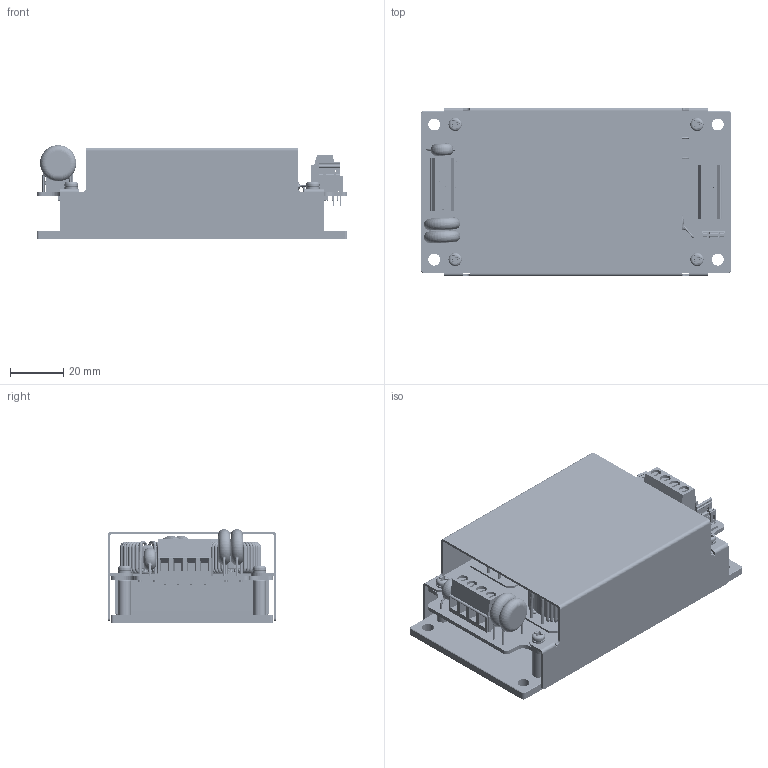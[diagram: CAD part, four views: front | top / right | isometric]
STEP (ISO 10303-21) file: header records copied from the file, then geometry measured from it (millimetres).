
FILE_DESCRIPTION (( 'STEP AP203' ), '1' );
FILE_NAME ('CQB50W8 CMFD¦¨«~¹Ï2025.01.02.STEP', '2025-01-03T09:15:02', ( '' ), ( '' ), 'SwSTEP 2.0', 'SolidWorks 2020', '' );
FILE_SCHEMA (( 'CONFIG_CONTROL_DESIGN' ));
Products named in the file (1): CQB50W8 CMFD成品圖2025.01.02
Bounding box: 116.84 x 63.36 x 35.19 mm (x, y, z)
Volume: 88388.6 mm3; surface area: 76812.4 mm2
Topology: 85 solids, 87 shells, 2518 faces, 6231 edges, 3903 vertices
Faces by surface type: plane 1266, cylinder 576, torus 349, bspline 274, cone 52, sphere 1
Full cylindrical faces by diameter (mm): 0.6 x8, 0.8 x14, 1.02 x12, 1.15 x332, 1.5 x6, 2.2 x4, 2.8 x9, 3 x4, 3.2 x9, 3.25 x1, 3.5 x4, 3.76 x2, 3.8 x8, 4 x8, 4.2 x4, 4.5 x6, 4.7 x4, 5 x6, 8 x1, 8.2 x1, 9 x1, 12.5 x2, 12.8 x2, 17.8 x2
Entity records: 114820 total; most frequent: CARTESIAN_POINT 61293, ORIENTED_EDGE 10480, DIRECTION 10061, EDGE_CURVE 5240, VERTEX_POINT 3740, EDGE_LOOP 3586, AXIS2_PLACEMENT_3D 3509, FACE_OUTER_BOUND 3288
